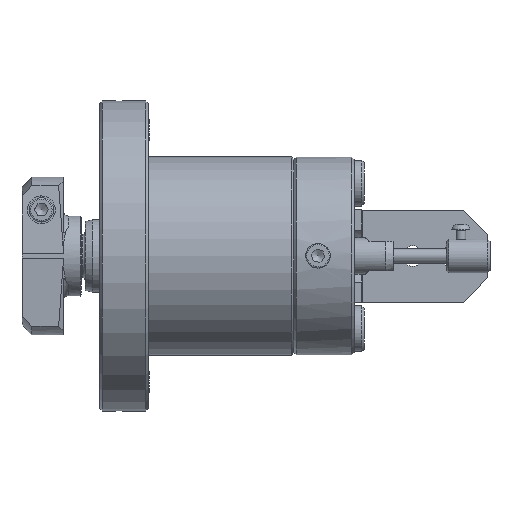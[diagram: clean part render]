
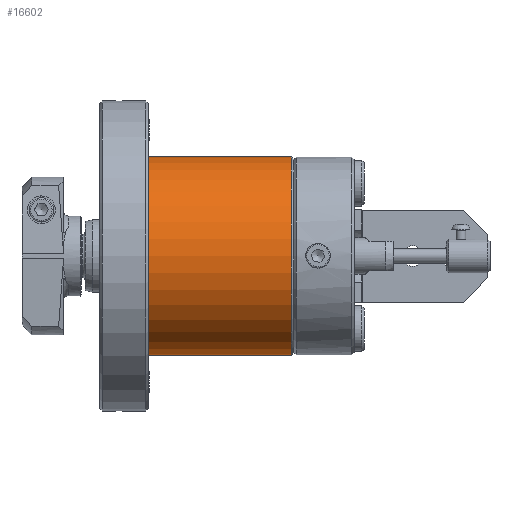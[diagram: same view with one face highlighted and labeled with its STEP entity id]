
A CAD part, top view. The second image highlights one B-rep face of the part: STEP entity #16602.
In plain terms, the highlighted cylindrical face has radius 40.95 mm (diameter 81.9 mm), a full revolution.
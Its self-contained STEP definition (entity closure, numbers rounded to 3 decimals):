
#3287=FACE_BOUND('',#5769,.T.);
#3724=CYLINDRICAL_SURFACE('',#17992,40.95);
#4401=FACE_OUTER_BOUND('',#5768,.T.);
#5768=EDGE_LOOP('',(#12933));
#5769=EDGE_LOOP('',(#12934));
#6963=CIRCLE('',#17985,40.95);
#6967=CIRCLE('',#17993,40.95);
#8143=VERTEX_POINT('',#29409);
#8147=VERTEX_POINT('',#29421);
#9908=EDGE_CURVE('',#8143,#8143,#6963,.T.);
#9912=EDGE_CURVE('',#8147,#8147,#6967,.T.);
#12933=ORIENTED_EDGE('',*,*,#9908,.T.);
#12934=ORIENTED_EDGE('',*,*,#9912,.F.);
#16602=ADVANCED_FACE('',(#4401,#3287),#3724,.T.);
#17985=AXIS2_PLACEMENT_3D('',#29410,#20999,#21000);
#17992=AXIS2_PLACEMENT_3D('',#29420,#21013,#21014);
#17993=AXIS2_PLACEMENT_3D('',#29422,#21015,#21016);
#20999=DIRECTION('center_axis',(1.,0.,0.));
#21000=DIRECTION('ref_axis',(0.,1.,0.));
#21013=DIRECTION('center_axis',(1.,0.,0.));
#21014=DIRECTION('ref_axis',(0.,1.,0.));
#21015=DIRECTION('center_axis',(1.,0.,0.));
#21016=DIRECTION('ref_axis',(0.,-1.,0.));
#29409=CARTESIAN_POINT('',(20.,40.95,0.));
#29410=CARTESIAN_POINT('Origin',(20.,0.,0.));
#29420=CARTESIAN_POINT('Origin',(50.,0.,0.));
#29421=CARTESIAN_POINT('',(79.,40.95,0.));
#29422=CARTESIAN_POINT('Origin',(79.,0.,0.));
